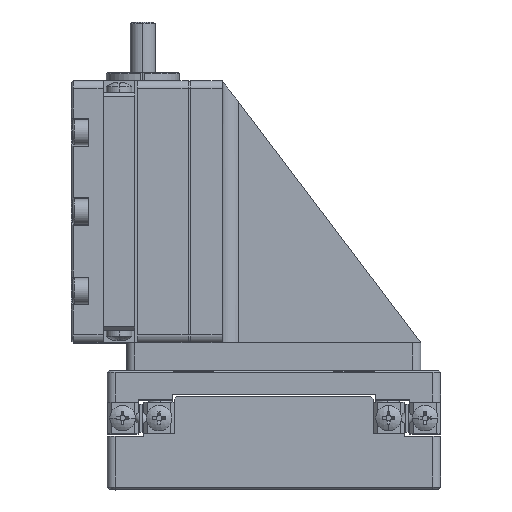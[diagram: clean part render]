
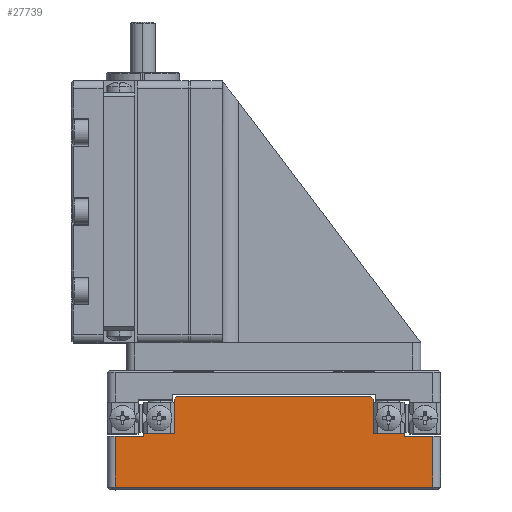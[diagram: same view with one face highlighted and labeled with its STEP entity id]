
A CAD part, top view. The second image highlights one B-rep face of the part: STEP entity #27739.
In plain terms, the highlighted planar face has unit normal (0, 0, 1).
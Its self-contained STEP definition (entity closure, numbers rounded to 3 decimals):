
#1064 = VECTOR ( 'NONE', #83715, 1000. ) ;
#2158 = LINE ( 'NONE', #77821, #51742 ) ;
#2725 = ORIENTED_EDGE ( 'NONE', *, *, #11534, .F. ) ;
#3475 = LINE ( 'NONE', #84167, #101206 ) ;
#3911 = DIRECTION ( 'NONE',  ( 0.707, -0.707, 0. ) ) ;
#4791 = LINE ( 'NONE', #72795, #50701 ) ;
#7404 = EDGE_CURVE ( 'NONE', #57353, #94058, #100047, .T. ) ;
#8451 = EDGE_CURVE ( 'NONE', #94058, #30229, #2158, .T. ) ;
#8597 = DIRECTION ( 'NONE',  ( 0., -1., 0. ) ) ;
#8873 = LINE ( 'NONE', #98324, #27461 ) ;
#9619 = CARTESIAN_POINT ( 'NONE',  ( 21., 11.7, 16.5 ) ) ;
#11534 = EDGE_CURVE ( 'NONE', #49404, #54076, #22728, .T. ) ;
#11764 = LINE ( 'NONE', #62810, #61316 ) ;
#11876 = VERTEX_POINT ( 'NONE', #38883 ) ;
#14555 = VERTEX_POINT ( 'NONE', #23684 ) ;
#14606 = CARTESIAN_POINT ( 'NONE',  ( 21., 7., 16.5 ) ) ;
#14844 = CARTESIAN_POINT ( 'NONE',  ( 12.5, 7., 16.5 ) ) ;
#15613 = CARTESIAN_POINT ( 'NONE',  ( -16.4, 6.7, 16.5 ) ) ;
#17544 = ORIENTED_EDGE ( 'NONE', *, *, #8451, .F. ) ;
#19845 = DIRECTION ( 'NONE',  ( 0., -1., 0. ) ) ;
#20025 = ORIENTED_EDGE ( 'NONE', *, *, #95876, .F. ) ;
#21458 = VECTOR ( 'NONE', #97339, 1000. ) ;
#22728 = LINE ( 'NONE', #26845, #21458 ) ;
#22742 = EDGE_CURVE ( 'NONE', #75890, #37420, #4791, .T. ) ;
#22941 = CARTESIAN_POINT ( 'NONE',  ( 21., 7., 16.5 ) ) ;
#23684 = CARTESIAN_POINT ( 'NONE',  ( -20., 6.7, 16.5 ) ) ;
#24754 = VECTOR ( 'NONE', #48915, 1000. ) ;
#26229 = VECTOR ( 'NONE', #52738, 1000. ) ;
#26845 = CARTESIAN_POINT ( 'NONE',  ( -12.5, 11.4, 16.5 ) ) ;
#26955 = EDGE_CURVE ( 'NONE', #44221, #70676, #49350, .T. ) ;
#27342 = VECTOR ( 'NONE', #63109, 1000. ) ;
#27461 = VECTOR ( 'NONE', #75553, 1000. ) ;
#27739 = ADVANCED_FACE ( 'NONE', ( #88485 ), #79709, .F. ) ;
#27955 = LINE ( 'NONE', #83465, #72509 ) ;
#28552 = LINE ( 'NONE', #40994, #24754 ) ;
#30229 = VERTEX_POINT ( 'NONE', #14844 ) ;
#31347 = EDGE_CURVE ( 'NONE', #37420, #11876, #87874, .T. ) ;
#32502 = VERTEX_POINT ( 'NONE', #85801 ) ;
#32998 = DIRECTION ( 'NONE',  ( -1., 0., 0. ) ) ;
#33518 = DIRECTION ( 'NONE',  ( 1., 0., 0. ) ) ;
#33693 = DIRECTION ( 'NONE',  ( 0., 0., -1. ) ) ;
#34049 = VERTEX_POINT ( 'NONE', #101702 ) ;
#35491 = AXIS2_PLACEMENT_3D ( 'NONE', #49629, #33693, #32998 ) ;
#37420 = VERTEX_POINT ( 'NONE', #54991 ) ;
#38883 = CARTESIAN_POINT ( 'NONE',  ( -12.5, 7., 16.5 ) ) ;
#40994 = CARTESIAN_POINT ( 'NONE',  ( 21., 0.3, 16.5 ) ) ;
#41686 = ORIENTED_EDGE ( 'NONE', *, *, #62745, .F. ) ;
#42142 = ORIENTED_EDGE ( 'NONE', *, *, #51692, .F. ) ;
#44036 = CARTESIAN_POINT ( 'NONE',  ( 12.5, 11.4, 16.5 ) ) ;
#44221 = VERTEX_POINT ( 'NONE', #101139 ) ;
#45407 = ORIENTED_EDGE ( 'NONE', *, *, #31347, .F. ) ;
#48406 = ORIENTED_EDGE ( 'NONE', *, *, #22742, .F. ) ;
#48915 = DIRECTION ( 'NONE',  ( -1., 0., 0. ) ) ;
#49350 = LINE ( 'NONE', #60203, #1064 ) ;
#49404 = VERTEX_POINT ( 'NONE', #52094 ) ;
#49629 = CARTESIAN_POINT ( 'NONE',  ( 21., 11.7, 16.5 ) ) ;
#50149 = EDGE_CURVE ( 'NONE', #54076, #57353, #75893, .T. ) ;
#50616 = VECTOR ( 'NONE', #3911, 1000. ) ;
#50701 = VECTOR ( 'NONE', #88370, 1000. ) ;
#51692 = EDGE_CURVE ( 'NONE', #11876, #49404, #3475, .T. ) ;
#51742 = VECTOR ( 'NONE', #8597, 1000. ) ;
#52094 = CARTESIAN_POINT ( 'NONE',  ( -12.5, 11.4, 16.5 ) ) ;
#52452 = EDGE_LOOP ( 'NONE', ( #52922, #2725, #42142, #45407, #48406, #58712, #82746, #58202, #70834, #58575, #41686, #20025, #17544, #61161 ) ) ;
#52738 = DIRECTION ( 'NONE',  ( 1., 0., 0. ) ) ;
#52922 = ORIENTED_EDGE ( 'NONE', *, *, #50149, .F. ) ;
#54076 = VERTEX_POINT ( 'NONE', #66661 ) ;
#54738 = EDGE_CURVE ( 'NONE', #70676, #32502, #27955, .T. ) ;
#54991 = CARTESIAN_POINT ( 'NONE',  ( -16.4, 7., 16.5 ) ) ;
#57353 = VERTEX_POINT ( 'NONE', #94427 ) ;
#58202 = ORIENTED_EDGE ( 'NONE', *, *, #70329, .F. ) ;
#58575 = ORIENTED_EDGE ( 'NONE', *, *, #26955, .F. ) ;
#58712 = ORIENTED_EDGE ( 'NONE', *, *, #95668, .F. ) ;
#59696 = CARTESIAN_POINT ( 'NONE',  ( 21., 6.7, 16.5 ) ) ;
#59817 = VERTEX_POINT ( 'NONE', #94960 ) ;
#60203 = CARTESIAN_POINT ( 'NONE',  ( 21., 6.7, 16.5 ) ) ;
#61161 = ORIENTED_EDGE ( 'NONE', *, *, #7404, .F. ) ;
#61316 = VECTOR ( 'NONE', #86634, 1000. ) ;
#62745 = EDGE_CURVE ( 'NONE', #34049, #44221, #11764, .T. ) ;
#62810 = CARTESIAN_POINT ( 'NONE',  ( 16.4, 11.7, 16.5 ) ) ;
#63109 = DIRECTION ( 'NONE',  ( 1., 0., 0. ) ) ;
#66661 = CARTESIAN_POINT ( 'NONE',  ( -12.2, 11.7, 16.5 ) ) ;
#68316 = LINE ( 'NONE', #59696, #26229 ) ;
#69648 = VECTOR ( 'NONE', #33518, 1000. ) ;
#70329 = EDGE_CURVE ( 'NONE', #32502, #59817, #28552, .T. ) ;
#70676 = VERTEX_POINT ( 'NONE', #76163 ) ;
#70834 = ORIENTED_EDGE ( 'NONE', *, *, #54738, .F. ) ;
#72509 = VECTOR ( 'NONE', #19845, 1000. ) ;
#72795 = CARTESIAN_POINT ( 'NONE',  ( -16.4, 11.7, 16.5 ) ) ;
#73741 = DIRECTION ( 'NONE',  ( 0., 1., 0. ) ) ;
#74365 = LINE ( 'NONE', #22941, #27342 ) ;
#75553 = DIRECTION ( 'NONE',  ( 0., 1., 0. ) ) ;
#75890 = VERTEX_POINT ( 'NONE', #15613 ) ;
#75893 = LINE ( 'NONE', #9619, #69648 ) ;
#76163 = CARTESIAN_POINT ( 'NONE',  ( 20., 6.7, 16.5 ) ) ;
#77821 = CARTESIAN_POINT ( 'NONE',  ( 12.5, 11.7, 16.5 ) ) ;
#79709 = PLANE ( 'NONE',  #35491 ) ;
#80739 = EDGE_CURVE ( 'NONE', #59817, #14555, #8873, .T. ) ;
#82746 = ORIENTED_EDGE ( 'NONE', *, *, #80739, .F. ) ;
#83465 = CARTESIAN_POINT ( 'NONE',  ( 20., 11.7, 16.5 ) ) ;
#83715 = DIRECTION ( 'NONE',  ( 1., 0., 0. ) ) ;
#84167 = CARTESIAN_POINT ( 'NONE',  ( -12.5, 11.7, 16.5 ) ) ;
#85801 = CARTESIAN_POINT ( 'NONE',  ( 20., 0.3, 16.5 ) ) ;
#86634 = DIRECTION ( 'NONE',  ( 0., -1., 0. ) ) ;
#87874 = LINE ( 'NONE', #14606, #98957 ) ;
#88370 = DIRECTION ( 'NONE',  ( 0., 1., 0. ) ) ;
#88485 = FACE_OUTER_BOUND ( 'NONE', #52452, .T. ) ;
#93506 = CARTESIAN_POINT ( 'NONE',  ( 12.5, 11.4, 16.5 ) ) ;
#94058 = VERTEX_POINT ( 'NONE', #93506 ) ;
#94427 = CARTESIAN_POINT ( 'NONE',  ( 12.2, 11.7, 16.5 ) ) ;
#94960 = CARTESIAN_POINT ( 'NONE',  ( -20., 0.3, 16.5 ) ) ;
#95668 = EDGE_CURVE ( 'NONE', #14555, #75890, #68316, .T. ) ;
#95876 = EDGE_CURVE ( 'NONE', #30229, #34049, #74365, .T. ) ;
#97339 = DIRECTION ( 'NONE',  ( 0.707, 0.707, 0. ) ) ;
#98324 = CARTESIAN_POINT ( 'NONE',  ( -20., 11.7, 16.5 ) ) ;
#98957 = VECTOR ( 'NONE', #101016, 1000. ) ;
#100047 = LINE ( 'NONE', #44036, #50616 ) ;
#101016 = DIRECTION ( 'NONE',  ( 1., 0., 0. ) ) ;
#101139 = CARTESIAN_POINT ( 'NONE',  ( 16.4, 6.7, 16.5 ) ) ;
#101206 = VECTOR ( 'NONE', #73741, 1000. ) ;
#101702 = CARTESIAN_POINT ( 'NONE',  ( 16.4, 7., 16.5 ) ) ;
